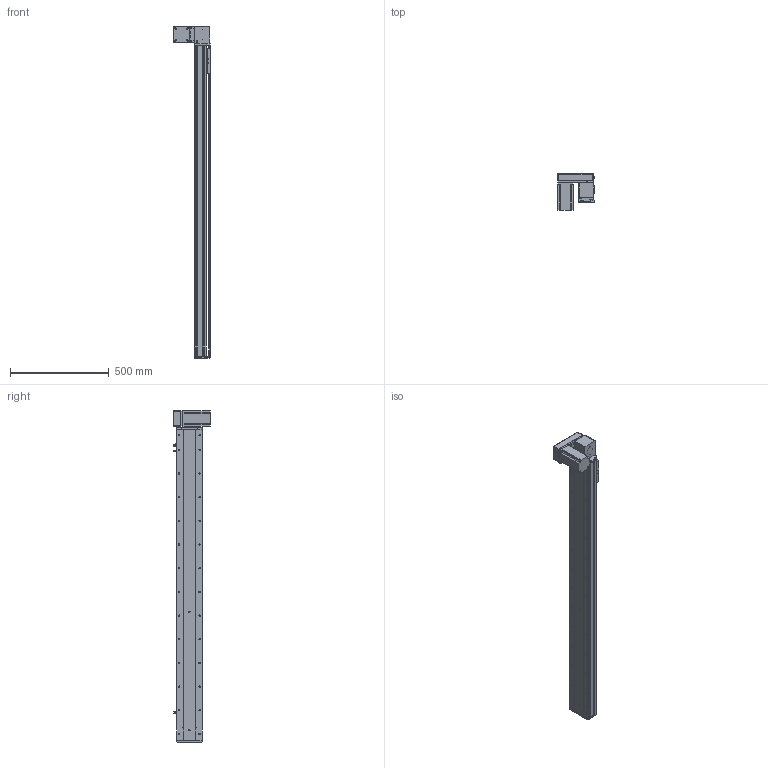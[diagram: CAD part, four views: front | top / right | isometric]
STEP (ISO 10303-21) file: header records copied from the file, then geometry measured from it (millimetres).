
FILE_DESCRIPTION (( 'STEP AP214' ), '1' );
FILE_NAME ('KSD130B-S1350-MRD-CM.STEP', '2019-11-16T01:05:48', ( '微软用户' ), ( '微软中国' ), 'SwSTEP 2.0', 'SolidWorks 2014', '' );
FILE_SCHEMA (( 'AUTOMOTIVE_DESIGN' ));
Length unit declared in the file: millimetre
Products named in the file (12): 130宽端盖同步带半封闭; 130宽底板半封闭同步带-1350行程; KSD130B-S1350-MRD-CM; 130宽模组保护罩上下左右折-同步带; 台达ECMA－C20807AS伺服电机; 130宽模组马达安装板连板上下折丝杆同步带; 覜茼え100遵圉猾敕; U倰嫖萇EEㄜSX672; 130宽盖板半封闭同步带-1350行程; 130宽马达安装板同步带右-改镜向_默认<按加工>; 130宽马达安装板同步带半封闭; 130宽同步带安装座半封闭
Assembly tree (13 placements, depth 2):
  KSD130B-S1350-MRD-CM
    130宽底板半封闭同步带-1350行程
    130宽端盖同步带半封闭
    130宽同步带安装座半封闭
    130宽马达安装板同步带半封闭
    130宽马达安装板同步带右-改镜向_默认<按加工>
    130宽盖板半封闭同步带-1350行程
    U倰嫖萇EEㄜSX672  x3
    覜茼え100遵圉猾敕
    130宽模组马达安装板连板上下折丝杆同步带
    台达ECMA－C20807AS伺服电机
    130宽模组保护罩上下左右折-同步带
Bounding box: 186 x 184.8 x 1683 mm (x, y, z)
Volume: 5909398.8 mm3; surface area: 1646397.9 mm2
Topology: 14 solids, 14 shells, 1629 faces, 4705 edges, 2991 vertices
Faces by surface type: cylinder 792, plane 638, cone 199
Entity records: 54675 total; most frequent: CARTESIAN_POINT 10392, DIRECTION 8279, ORIENTED_EDGE 7998, EDGE_CURVE 3999, AXIS2_PLACEMENT_3D 3038, VERTEX_POINT 2615, VECTOR 2203, LINE 2203
